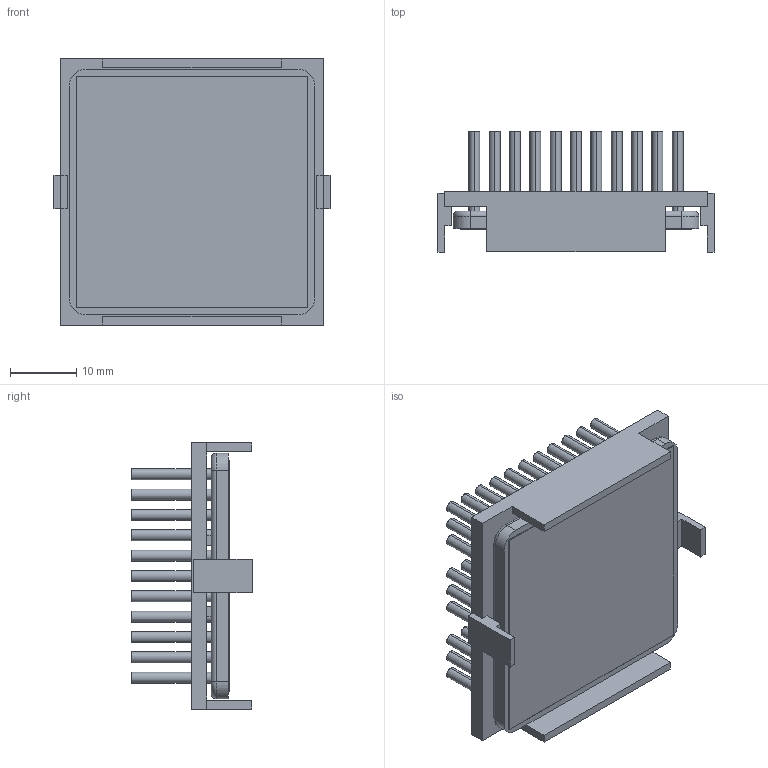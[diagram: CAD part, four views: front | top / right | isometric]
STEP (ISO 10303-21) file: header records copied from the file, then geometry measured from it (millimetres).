
FILE_DESCRIPTION (( 'STEP AP214' ), '1' );
FILE_NAME ('INM37.5002-15P-2.6Y.STEP', '2023-02-21T15:42:42', ( '' ), ( '' ), 'SwSTEP 2.0', 'SolidWorks 2020', '' );
FILE_SCHEMA (( 'AUTOMOTIVE_DESIGN' ));
Length unit declared in the file: inch
Products named in the file (1): INM37.5002-15P-2.6Y
Bounding box: 41.7 x 18.2 x 40.2 mm (x, y, z)
Volume: 8426.1 mm3; surface area: 15423.8 mm2
Topology: 3 solids, 3 shells, 421 faces, 898 edges, 596 vertices
Faces by surface type: cylinder 234, plane 183, torus 4
Entity records: 17099 total; most frequent: DIRECTION 2214, CARTESIAN_POINT 1916, ORIENTED_EDGE 1796, EDGE_CURVE 898, AXIS2_PLACEMENT_3D 894, VERTEX_POINT 596, EDGE_LOOP 536, CIRCLE 472
